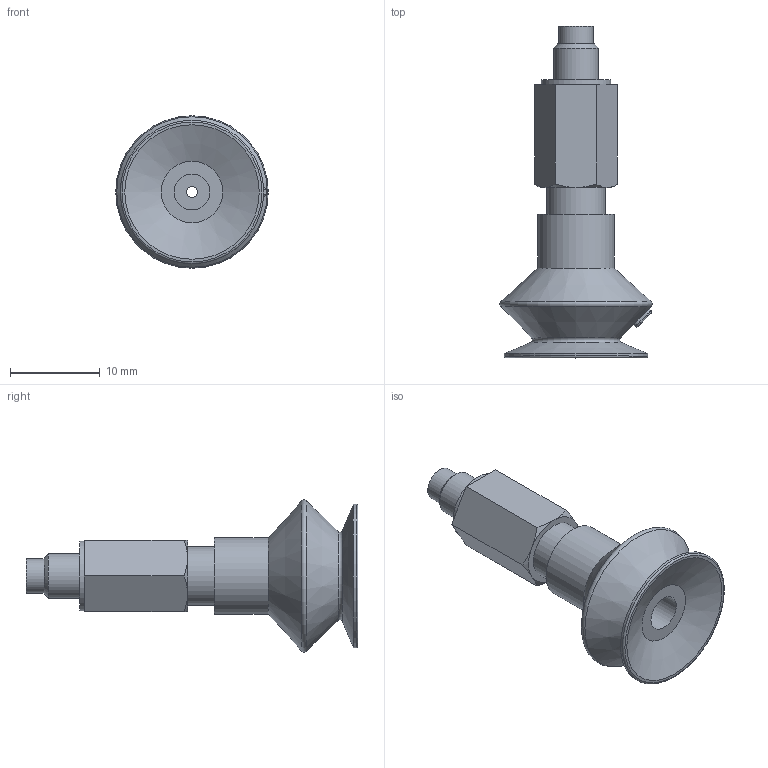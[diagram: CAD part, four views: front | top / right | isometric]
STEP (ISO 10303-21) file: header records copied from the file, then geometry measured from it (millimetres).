
FILE_DESCRIPTION(('STEP AP203'),'1');
FILE_NAME('.stp','2025-04-01T06:10:59',(' '),(' '),'Spatial InterOp 3D',' ',' ');
FILE_SCHEMA(('CONFIG_CONTROL_DESIGN'));
Length unit declared in the file: millimetre
Products named in the file (6): BPSS-L3-BPBG-15A-※; BPSS-15A-L3-M; BPSS-15A-L3-F; BPBG-15A-※; __27; BPBG-15A
Assembly tree (5 placements, depth 3):
  BPSS-L3-BPBG-15A-※
    BPSS-15A-L3-M
    BPSS-15A-L3-F
    BPBG-15A-※
      __27
      BPBG-15A
Bounding box: 17 x 37 x 17 mm (x, y, z)
Volume: 2193 mm3; surface area: 2509.9 mm2
Topology: 4 solids, 4 shells, 70 faces, 141 edges, 90 vertices
Faces by surface type: plane 23, cylinder 16, cone 15, bspline 8, torus 8
Full cylindrical faces by diameter (mm): 1.2 x1, 2.4 x2, 3.4 x1, 3.8 x1, 4 x3, 5 x1, 6 x2, 6.5 x2, 7.8 x1, 8.5 x1, 16 x1
Entity records: 3031 total; most frequent: CARTESIAN_POINT 1465, DIRECTION 265, ORIENTED_EDGE 204, AXIS2_PLACEMENT_3D 123, EDGE_LOOP 117, EDGE_CURVE 102, FACE_OUTER_BOUND 94, VERTEX_POINT 81
